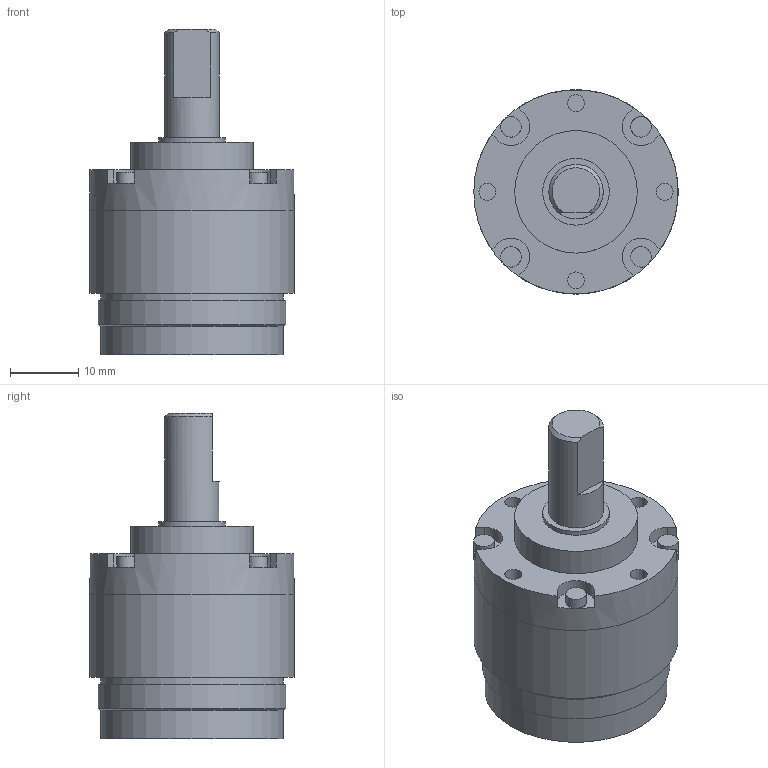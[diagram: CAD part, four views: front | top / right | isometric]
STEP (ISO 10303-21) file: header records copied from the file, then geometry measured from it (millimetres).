
FILE_DESCRIPTION(/* description */ (''),/* implementation_level */ '2;1');
FILE_NAME(/* name */ '30-1_2.stp',/* time_stamp */ '2016-09-07T09:28:40+02:00',/* author */ ('DR. FRITZ FAULHABER GmbH & Co. KG'),/* organization */ ('DR. FRITZ FAULHABER GmbH & Co. KG'),/* preprocessor_version */ 'ST-DEVELOPER v16',/* originating_system */ 'SIEMENS PLM Software NX 10.0',/* authorisation */ '');
FILE_SCHEMA (('AUTOMOTIVE_DESIGN { 1 0 10303 214 3 1 1 1 }'));
Length unit declared in the file: millimetre
Products named in the file (1): H00000173_A
Bounding box: 30 x 30 x 47.8 mm (x, y, z)
Volume: 19111.7 mm3; surface area: 5039 mm2
Topology: 1 solids, 1 shells, 62 faces, 153 edges, 119 vertices
Faces by surface type: plane 35, cylinder 25, cone 2
Full cylindrical faces by diameter (mm): 2.5 x4, 3 x4, 8 x1, 9.8 x1, 11.88 x1, 12.08 x1, 18 x1, 21.5 x1, 22.05 x1, 26.8 x2, 27.6 x1, 29.99 x1, 30 x2
Entity records: 1751 total; most frequent: DIRECTION 325, CARTESIAN_POINT 272, ORIENTED_EDGE 202, AXIS2_PLACEMENT_3D 140, EDGE_CURVE 101, EDGE_LOOP 99, VERTEX_POINT 78, CIRCLE 77
